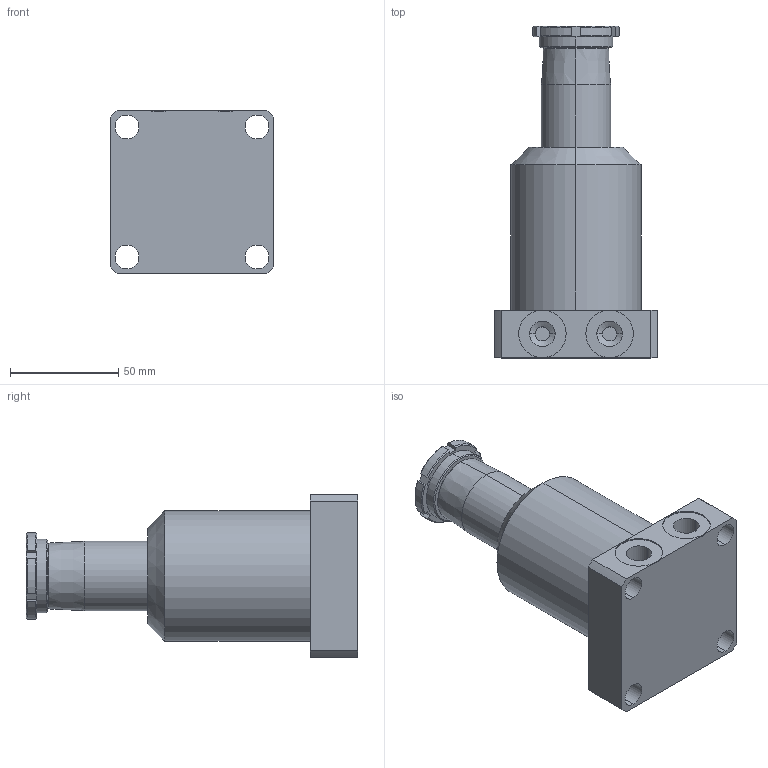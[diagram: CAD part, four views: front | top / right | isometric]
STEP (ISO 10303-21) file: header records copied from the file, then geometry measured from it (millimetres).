
FILE_DESCRIPTION (( 'STEP AP203' ), '1' );
FILE_NAME ('4120 426 429.STEP', '2016-01-28T11:38:11', ( '' ), ( '' ), 'SwSTEP 2.0', 'SolidWorks 2015', '' );
FILE_SCHEMA (( 'CONFIG_CONTROL_DESIGN' ));
Length unit declared in the file: millimetre
Products named in the file (1): 4120 426 429
Bounding box: 75 x 153 x 75 mm (x, y, z)
Volume: 363921.4 mm3; surface area: 41832.7 mm2
Topology: 1 solids, 2 shells, 103 faces, 252 edges, 160 vertices
Faces by surface type: cylinder 38, plane 33, cone 28, torus 4
Entity records: 3185 total; most frequent: CARTESIAN_POINT 612, DIRECTION 544, ORIENTED_EDGE 504, EDGE_CURVE 252, AXIS2_PLACEMENT_3D 212, VERTEX_POINT 160, EDGE_LOOP 120, LINE 120
